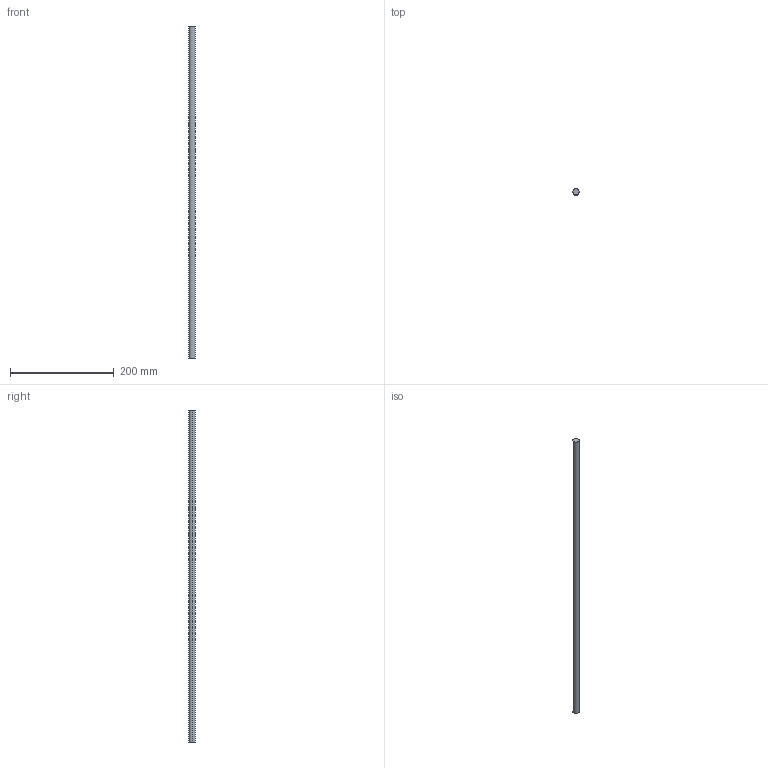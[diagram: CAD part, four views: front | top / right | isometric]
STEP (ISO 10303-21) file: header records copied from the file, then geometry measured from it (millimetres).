
FILE_DESCRIPTION (( 'STEP AP214' ), '1' );
FILE_NAME ('Magic Reling quer - S18_S19 - 750.step', '2010-09-07T14:56:13', ( 'grass' ), ( '' ), 'SwSTEP 2.0', 'SolidWorks 2010', '' );
FILE_SCHEMA (( 'AUTOMOTIVE_DESIGN' ));
Length unit declared in the file: millimetre
Products named in the file (1): Magic Reling quer - S18_S19 - 750
Bounding box: 12 x 12 x 641 mm (x, y, z)
Volume: 72495.4 mm3; surface area: 24391.3 mm2
Topology: 1 solids, 1 shells, 4 faces, 6 edges, 4 vertices
Faces by surface type: cylinder 2, plane 2
Entity records: 128 total; most frequent: DIRECTION 20, CARTESIAN_POINT 15, ORIENTED_EDGE 12, AXIS2_PLACEMENT_3D 9, EDGE_CURVE 6, EDGE_LOOP 4, CIRCLE 4, FACE_OUTER_BOUND 4
